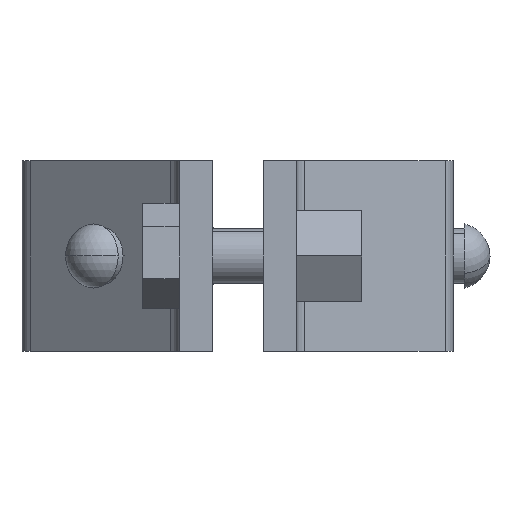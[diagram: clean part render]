
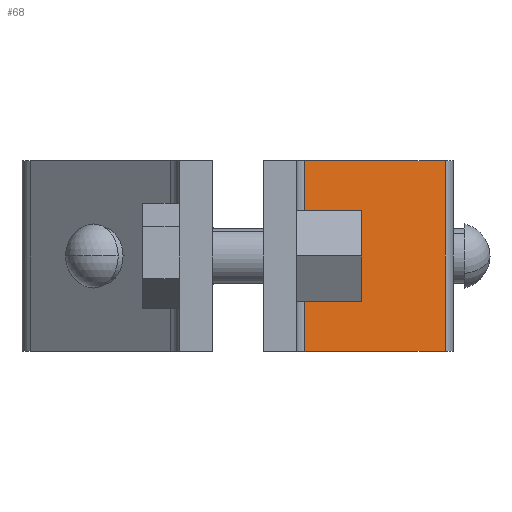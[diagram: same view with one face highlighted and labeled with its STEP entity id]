
A CAD part, left-side view. The second image highlights one B-rep face of the part: STEP entity #68.
In plain terms, the highlighted planar face has unit normal (-0.767, -0.642, 0) as drawn and (-0.767, 0.642, 0) by its records, which use the part's own axes.
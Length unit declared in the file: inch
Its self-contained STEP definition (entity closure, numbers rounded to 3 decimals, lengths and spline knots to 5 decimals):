
#68 = ADVANCED_FACE ( 'NONE', ( #3173 ), #961, .T. ) ;
#166 = VECTOR ( 'NONE', #2806, 39.37008 ) ;
#310 = VERTEX_POINT ( 'NONE', #3080 ) ;
#356 = VERTEX_POINT ( 'NONE', #3095 ) ;
#393 = DIRECTION ( 'NONE',  ( -0.642, -0.767, 0. ) ) ;
#478 = DIRECTION ( 'NONE',  ( -0.642, -0.767, 0. ) ) ;
#529 = VERTEX_POINT ( 'NONE', #1808 ) ;
#652 = CARTESIAN_POINT ( 'NONE',  ( 0.64, 0.177, -1.024 ) ) ;
#660 = ORIENTED_EDGE ( 'NONE', *, *, #1958, .F. ) ;
#817 = AXIS2_PLACEMENT_3D ( 'NONE', #1944, #2688, #478 ) ;
#943 = ORIENTED_EDGE ( 'NONE', *, *, #1001, .T. ) ;
#961 = PLANE ( 'NONE',  #817 ) ;
#1001 = EDGE_CURVE ( 'NONE', #529, #310, #1314, .T. ) ;
#1054 = CARTESIAN_POINT ( 'NONE',  ( 0.64, 0.177, 0. ) ) ;
#1108 = CARTESIAN_POINT ( 'NONE',  ( 0.67747, 0.2218, 0. ) ) ;
#1314 = LINE ( 'NONE', #1518, #2778 ) ;
#1499 = ORIENTED_EDGE ( 'NONE', *, *, #2671, .T. ) ;
#1518 = CARTESIAN_POINT ( 'NONE',  ( 1.31103, 0.9792, -1.024 ) ) ;
#1607 = DIRECTION ( 'NONE',  ( 0., 0., 1. ) ) ;
#1758 = DIRECTION ( 'NONE',  ( 0., 0., -1. ) ) ;
#1808 = CARTESIAN_POINT ( 'NONE',  ( 1.31103, 0.9792, 0. ) ) ;
#1819 = EDGE_LOOP ( 'NONE', ( #660, #943, #2031, #1499 ) ) ;
#1929 = VERTEX_POINT ( 'NONE', #1108 ) ;
#1944 = CARTESIAN_POINT ( 'NONE',  ( 0.64, 0.177, -1.024 ) ) ;
#1958 = EDGE_CURVE ( 'NONE', #529, #1929, #2859, .T. ) ;
#2031 = ORIENTED_EDGE ( 'NONE', *, *, #2993, .T. ) ;
#2495 = VECTOR ( 'NONE', #393, 39.37008 ) ;
#2519 = CARTESIAN_POINT ( 'NONE',  ( 0.67747, 0.2218, 0. ) ) ;
#2671 = EDGE_CURVE ( 'NONE', #356, #1929, #2846, .T. ) ;
#2688 = DIRECTION ( 'NONE',  ( -0.767, 0.642, 0. ) ) ;
#2778 = VECTOR ( 'NONE', #1758, 39.37008 ) ;
#2806 = DIRECTION ( 'NONE',  ( -0.642, -0.767, 0. ) ) ;
#2815 = VECTOR ( 'NONE', #1607, 39.37008 ) ;
#2846 = LINE ( 'NONE', #2519, #2815 ) ;
#2859 = LINE ( 'NONE', #1054, #166 ) ;
#2864 = LINE ( 'NONE', #652, #2495 ) ;
#2993 = EDGE_CURVE ( 'NONE', #310, #356, #2864, .T. ) ;
#3080 = CARTESIAN_POINT ( 'NONE',  ( 1.31103, 0.9792, -1.024 ) ) ;
#3095 = CARTESIAN_POINT ( 'NONE',  ( 0.67747, 0.2218, -1.024 ) ) ;
#3173 = FACE_OUTER_BOUND ( 'NONE', #1819, .T. ) ;
